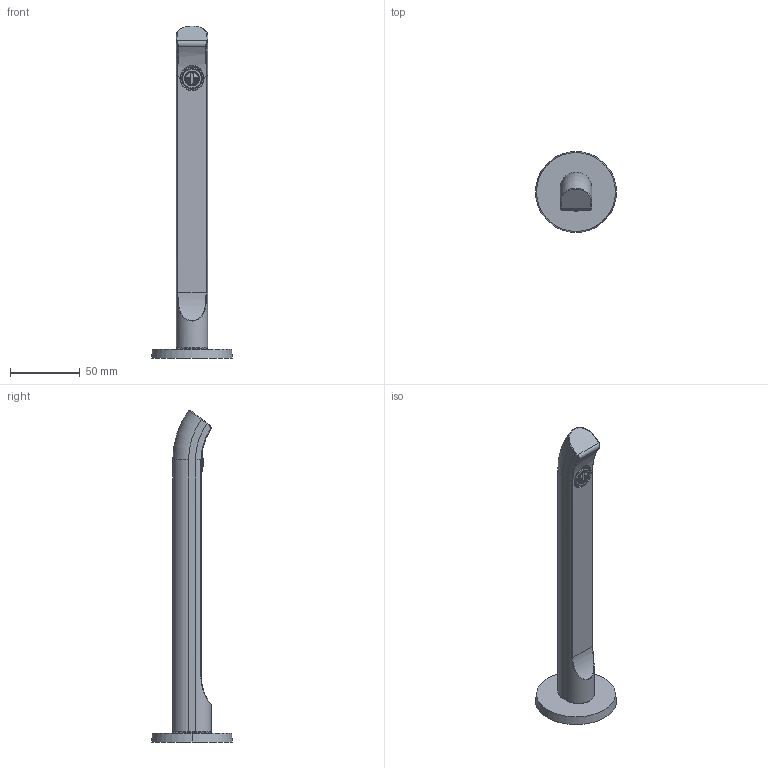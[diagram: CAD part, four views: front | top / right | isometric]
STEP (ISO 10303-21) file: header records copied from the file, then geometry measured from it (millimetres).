
FILE_DESCRIPTION((''),'2;1');
FILE_NAME('67000Z0820000000_SW0001','2026-02-02T10:33:49',('Luca'),(''),'CREO PARAMETRIC BY PTC INC, 2025010','CREO PARAMETRIC BY PTC INC, 2025010','');
FILE_SCHEMA(('AUTOMOTIVE_DESIGN { 1 0 10303 214 1 1 1 1 }'));
Products named in the file (1): 67000Z0820000000_SW0001
Bounding box: 58 x 58 x 237.95 mm (x, y, z)
Volume: 66798 mm3; surface area: 39129.4 mm2
Topology: 1 solids, 1 shells, 1605 faces, 4397 edges, 2890 vertices
Faces by surface type: plane 1402, cylinder 121, bspline 32, torus 21, cone 19, sphere 10
Entity records: 66913 total; most frequent: CARTESIAN_POINT 14980, ORIENTED_EDGE 8794, DIRECTION 8037, EDGE_CURVE 4397, VECTOR 3624, LINE 3624, VERTEX_POINT 2890, AXIS2_PLACEMENT_3D 2205
